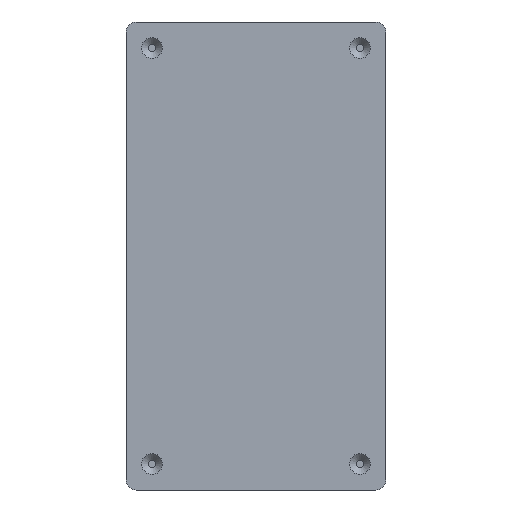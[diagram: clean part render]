
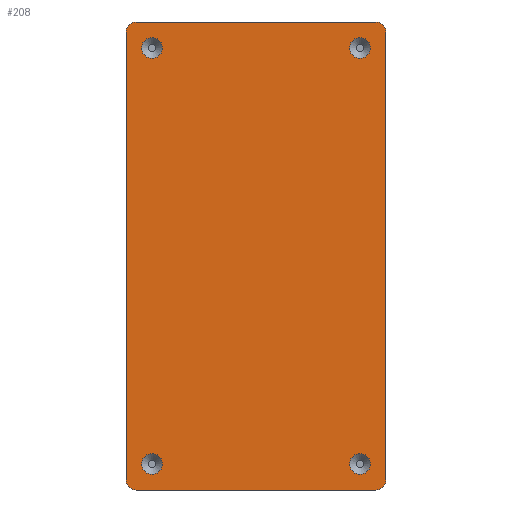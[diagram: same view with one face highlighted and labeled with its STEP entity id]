
A CAD part, front view. The second image highlights one B-rep face of the part: STEP entity #208.
In plain terms, the highlighted planar face has unit normal (0, -1, 0).
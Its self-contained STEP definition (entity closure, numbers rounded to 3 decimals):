
#208=ADVANCED_FACE('',(#2449,#2451,#2453,#2455,#2457),#2459,.F.);
#2449=FACE_BOUND('',#2450,.T.);
#2450=EDGE_LOOP('',(#4278,#4279,#4280,#4281,#4282,#4283,#4284,#4285));
#2451=FACE_BOUND('',#2452,.T.);
#2452=EDGE_LOOP('',(#4286));
#2453=FACE_BOUND('',#2454,.T.);
#2454=EDGE_LOOP('',(#4287));
#2455=FACE_BOUND('',#2456,.T.);
#2456=EDGE_LOOP('',(#4288));
#2457=FACE_BOUND('',#2458,.T.);
#2458=EDGE_LOOP('',(#4289));
#2459=PLANE('',#2460);
#2460=AXIS2_PLACEMENT_3D('',#2461,#2462,#2463);
#2461=CARTESIAN_POINT('',(0.,0.,0.));
#2462=DIRECTION('',(0.,1.,0.));
#2463=DIRECTION('',(1.,0.,0.));
#4278=ORIENTED_EDGE('',*,*,#5558,.F.);
#4279=ORIENTED_EDGE('',*,*,#5559,.F.);
#4280=ORIENTED_EDGE('',*,*,#5560,.F.);
#4281=ORIENTED_EDGE('',*,*,#5561,.F.);
#4282=ORIENTED_EDGE('',*,*,#5562,.F.);
#4283=ORIENTED_EDGE('',*,*,#5563,.F.);
#4284=ORIENTED_EDGE('',*,*,#5564,.F.);
#4285=ORIENTED_EDGE('',*,*,#5565,.F.);
#4286=ORIENTED_EDGE('',*,*,#5566,.T.);
#4287=ORIENTED_EDGE('',*,*,#5567,.T.);
#4288=ORIENTED_EDGE('',*,*,#5568,.T.);
#4289=ORIENTED_EDGE('',*,*,#5569,.T.);
#5558=EDGE_CURVE('',#6206,#6207,#6208,.T.);
#5559=EDGE_CURVE('',#6209,#6206,#6210,.T.);
#5560=EDGE_CURVE('',#6211,#6209,#6212,.T.);
#5561=EDGE_CURVE('',#6213,#6211,#6214,.T.);
#5562=EDGE_CURVE('',#6215,#6213,#6216,.T.);
#5563=EDGE_CURVE('',#6217,#6215,#6218,.T.);
#5564=EDGE_CURVE('',#6219,#6217,#6220,.T.);
#5565=EDGE_CURVE('',#6207,#6219,#6221,.T.);
#5566=EDGE_CURVE('',#6222,#6222,#6223,.F.);
#5567=EDGE_CURVE('',#6224,#6224,#6225,.F.);
#5568=EDGE_CURVE('',#6226,#6226,#6227,.F.);
#5569=EDGE_CURVE('',#6228,#6228,#6229,.F.);
#6206=VERTEX_POINT('',#7314);
#6207=VERTEX_POINT('',#7315);
#6208=LINE('',#7316,#7317);
#6209=VERTEX_POINT('',#7319);
#6210=CIRCLE('',#7320,3.);
#6211=VERTEX_POINT('',#7324);
#6212=LINE('',#7325,#7326);
#6213=VERTEX_POINT('',#7328);
#6214=CIRCLE('',#7329,3.);
#6215=VERTEX_POINT('',#7333);
#6216=LINE('',#7334,#7335);
#6217=VERTEX_POINT('',#7337);
#6218=CIRCLE('',#7338,3.);
#6219=VERTEX_POINT('',#7342);
#6220=LINE('',#7343,#7344);
#6221=CIRCLE('',#7346,3.);
#6222=VERTEX_POINT('',#7350);
#6223=CIRCLE('',#7351,3.);
#6224=VERTEX_POINT('',#7355);
#6225=CIRCLE('',#7356,3.);
#6226=VERTEX_POINT('',#7360);
#6227=CIRCLE('',#7361,3.);
#6228=VERTEX_POINT('',#7365);
#6229=CIRCLE('',#7366,3.);
#7314=CARTESIAN_POINT('',(37.5,0.,64.5));
#7315=CARTESIAN_POINT('',(37.5,0.,-64.5));
#7316=CARTESIAN_POINT('',(37.5,0.,64.5));
#7317=VECTOR('',#7318,1.);
#7318=DIRECTION('',(0.,0.,-1.));
#7319=CARTESIAN_POINT('',(34.5,0.,67.5));
#7320=AXIS2_PLACEMENT_3D('',#7321,#7322,#7323);
#7321=CARTESIAN_POINT('',(34.5,0.,64.5));
#7322=DIRECTION('',(-0.,1.,0.));
#7323=DIRECTION('',(0.,0.,1.));
#7324=CARTESIAN_POINT('',(-34.5,0.,67.5));
#7325=CARTESIAN_POINT('',(-34.5,0.,67.5));
#7326=VECTOR('',#7327,1.);
#7327=DIRECTION('',(1.,0.,0.));
#7328=CARTESIAN_POINT('',(-37.5,0.,64.5));
#7329=AXIS2_PLACEMENT_3D('',#7330,#7331,#7332);
#7330=CARTESIAN_POINT('',(-34.5,0.,64.5));
#7331=DIRECTION('',(-0.,1.,0.));
#7332=DIRECTION('',(-1.,0.,0.));
#7333=CARTESIAN_POINT('',(-37.5,0.,-64.5));
#7334=CARTESIAN_POINT('',(-37.5,0.,-64.5));
#7335=VECTOR('',#7336,1.);
#7336=DIRECTION('',(0.,0.,1.));
#7337=CARTESIAN_POINT('',(-34.5,0.,-67.5));
#7338=AXIS2_PLACEMENT_3D('',#7339,#7340,#7341);
#7339=CARTESIAN_POINT('',(-34.5,0.,-64.5));
#7340=DIRECTION('',(-0.,1.,0.));
#7341=DIRECTION('',(0.,0.,-1.));
#7342=CARTESIAN_POINT('',(34.5,0.,-67.5));
#7343=CARTESIAN_POINT('',(34.5,0.,-67.5));
#7344=VECTOR('',#7345,1.);
#7345=DIRECTION('',(-1.,0.,0.));
#7346=AXIS2_PLACEMENT_3D('',#7347,#7348,#7349);
#7347=CARTESIAN_POINT('',(34.5,0.,-64.5));
#7348=DIRECTION('',(-0.,1.,0.));
#7349=DIRECTION('',(1.,0.,0.));
#7350=CARTESIAN_POINT('',(-27.,0.,60.));
#7351=AXIS2_PLACEMENT_3D('',#7352,#7353,#7354);
#7352=CARTESIAN_POINT('',(-30.,0.,60.));
#7353=DIRECTION('',(-0.,-1.,-0.));
#7354=DIRECTION('',(1.,0.,0.));
#7355=CARTESIAN_POINT('',(-27.,0.,-60.));
#7356=AXIS2_PLACEMENT_3D('',#7357,#7358,#7359);
#7357=CARTESIAN_POINT('',(-30.,0.,-60.));
#7358=DIRECTION('',(-0.,-1.,-0.));
#7359=DIRECTION('',(1.,0.,0.));
#7360=CARTESIAN_POINT('',(33.,0.,60.));
#7361=AXIS2_PLACEMENT_3D('',#7362,#7363,#7364);
#7362=CARTESIAN_POINT('',(30.,0.,60.));
#7363=DIRECTION('',(-0.,-1.,-0.));
#7364=DIRECTION('',(1.,0.,0.));
#7365=CARTESIAN_POINT('',(33.,0.,-60.));
#7366=AXIS2_PLACEMENT_3D('',#7367,#7368,#7369);
#7367=CARTESIAN_POINT('',(30.,0.,-60.));
#7368=DIRECTION('',(-0.,-1.,-0.));
#7369=DIRECTION('',(1.,0.,0.));
